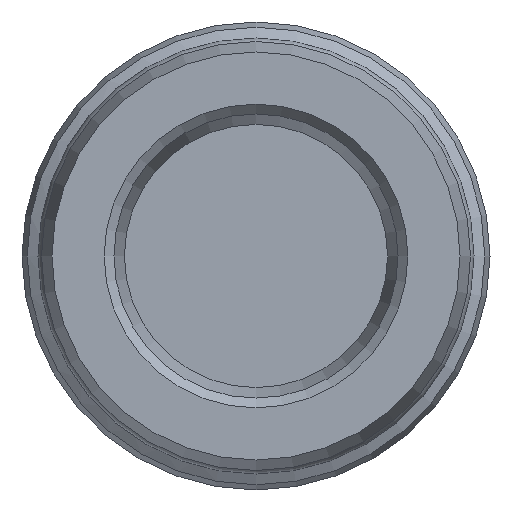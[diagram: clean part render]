
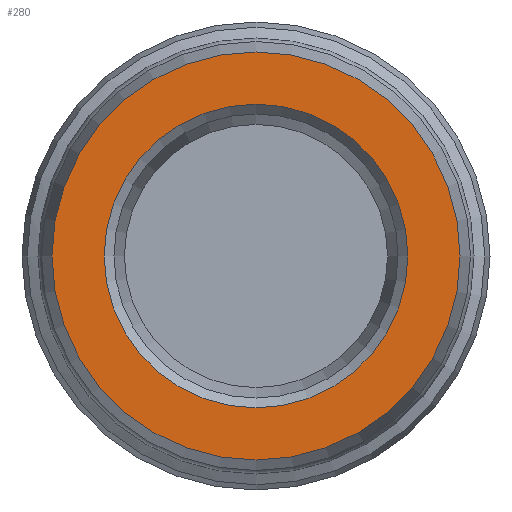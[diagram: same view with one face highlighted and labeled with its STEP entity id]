
A CAD part, left-side view. The second image highlights one B-rep face of the part: STEP entity #280.
In plain terms, the highlighted planar face has unit normal (-1, 0, 0).
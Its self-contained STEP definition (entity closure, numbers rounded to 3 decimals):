
#252=PLANE('',#766);
#280=ADVANCED_FACE('',(#363,#364),#252,.F.);
#363=FACE_BOUND('',#446,.T.);
#364=FACE_BOUND('',#447,.T.);
#446=EDGE_LOOP('',(#544));
#447=EDGE_LOOP('',(#545));
#544=ORIENTED_EDGE('',*,*,#674,.F.);
#545=ORIENTED_EDGE('',*,*,#673,.T.);
#621=VERTEX_POINT('',#1199);
#622=VERTEX_POINT('',#1202);
#673=EDGE_CURVE('',#621,#621,#708,.T.);
#674=EDGE_CURVE('',#622,#622,#709,.T.);
#708=CIRCLE('',#763,10.464);
#709=CIRCLE('',#765,7.786);
#763=AXIS2_PLACEMENT_3D('',#1198,#882,#883);
#765=AXIS2_PLACEMENT_3D('',#1201,#886,#887);
#766=AXIS2_PLACEMENT_3D('',#1203,#888,#889);
#882=DIRECTION('',(-1.,0.,0.));
#883=DIRECTION('',(0.,-1.,0.));
#886=DIRECTION('',(-1.,0.,0.));
#887=DIRECTION('',(0.,-1.,0.));
#888=DIRECTION('',(1.,0.,0.));
#889=DIRECTION('',(0.,-1.,0.));
#1198=CARTESIAN_POINT('',(-19.871,-92.321,0.));
#1199=CARTESIAN_POINT('',(-19.871,-102.785,0.));
#1201=CARTESIAN_POINT('',(-19.871,-92.321,0.));
#1202=CARTESIAN_POINT('',(-19.871,-100.107,0.));
#1203=CARTESIAN_POINT('',(-19.871,-81.857,0.));
